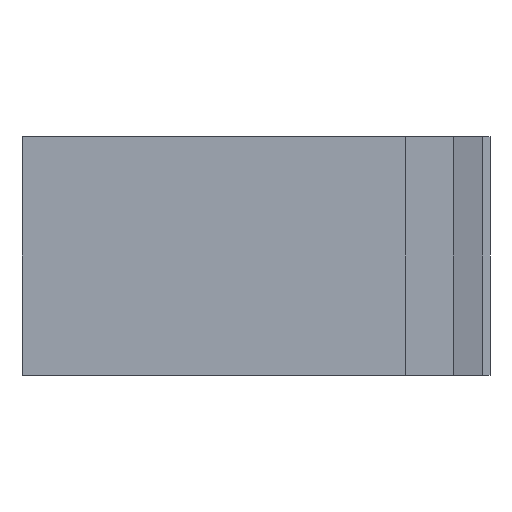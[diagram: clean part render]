
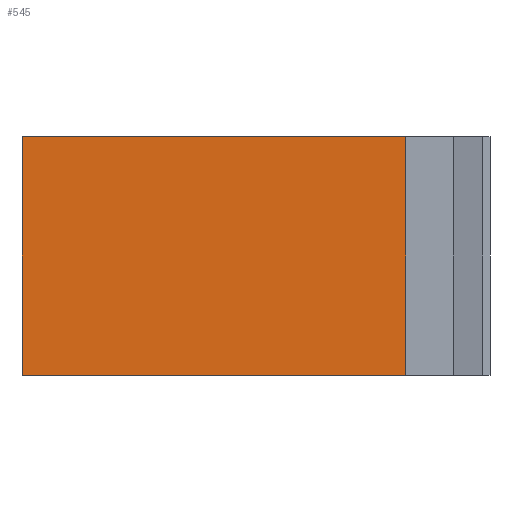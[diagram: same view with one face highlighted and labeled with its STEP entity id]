
A CAD part, left-side view. The second image highlights one B-rep face of the part: STEP entity #545.
In plain terms, the highlighted planar face has unit normal (-1, 0, 0).
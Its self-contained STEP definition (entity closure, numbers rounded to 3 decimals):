
#19=FACE_OUTER_BOUND('',#47,.T.);
#47=EDGE_LOOP('',(#395,#396,#397,#398));
#78=LINE('',#753,#156);
#103=LINE('',#802,#181);
#104=LINE('',#805,#182);
#105=LINE('',#806,#183);
#156=VECTOR('',#612,10.);
#181=VECTOR('',#641,10.);
#182=VECTOR('',#644,10.);
#183=VECTOR('',#645,10.);
#233=VERTEX_POINT('',#750);
#234=VERTEX_POINT('',#752);
#256=VERTEX_POINT('',#800);
#257=VERTEX_POINT('',#804);
#286=EDGE_CURVE('',#234,#233,#78,.T.);
#311=EDGE_CURVE('',#256,#233,#103,.T.);
#312=EDGE_CURVE('',#257,#256,#104,.T.);
#313=EDGE_CURVE('',#234,#257,#105,.T.);
#395=ORIENTED_EDGE('',*,*,#286,.T.);
#396=ORIENTED_EDGE('',*,*,#311,.F.);
#397=ORIENTED_EDGE('',*,*,#312,.F.);
#398=ORIENTED_EDGE('',*,*,#313,.F.);
#517=PLANE('',#575);
#545=ADVANCED_FACE('',(#19),#517,.F.);
#575=AXIS2_PLACEMENT_3D('',#803,#642,#643);
#612=DIRECTION('',(0.,1.,0.));
#641=DIRECTION('',(0.,0.,1.));
#642=DIRECTION('center_axis',(1.,0.,0.));
#643=DIRECTION('ref_axis',(0.,-1.,0.));
#644=DIRECTION('',(0.,1.,0.));
#645=DIRECTION('',(0.,0.,-1.));
#750=CARTESIAN_POINT('',(3.5,27.1,15.));
#752=CARTESIAN_POINT('',(3.5,3.,15.));
#753=CARTESIAN_POINT('',(3.5,12.55,15.));
#800=CARTESIAN_POINT('',(3.5,27.1,0.));
#802=CARTESIAN_POINT('',(3.5,27.1,15.7));
#803=CARTESIAN_POINT('Origin',(3.5,12.55,15.7));
#804=CARTESIAN_POINT('',(3.5,3.,0.));
#805=CARTESIAN_POINT('',(3.5,22.1,0.));
#806=CARTESIAN_POINT('',(3.5,3.,7.85));
